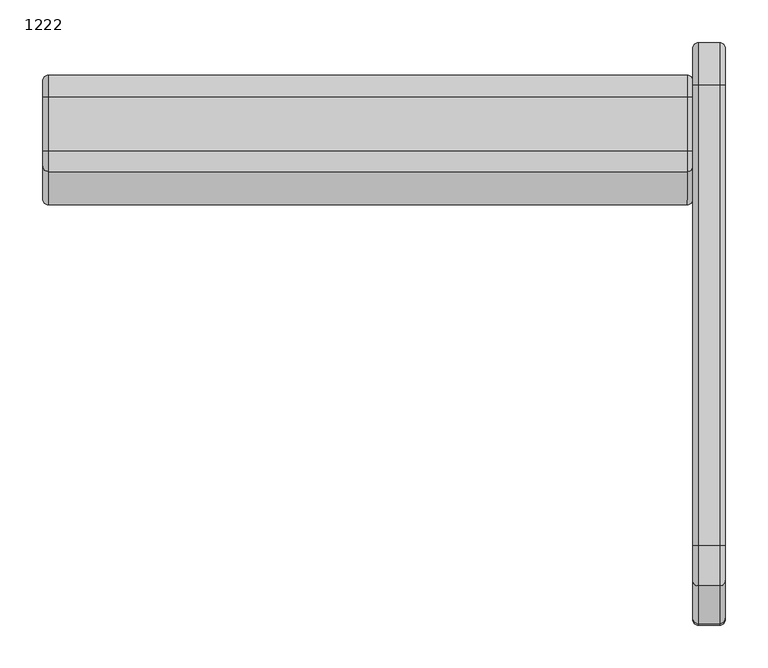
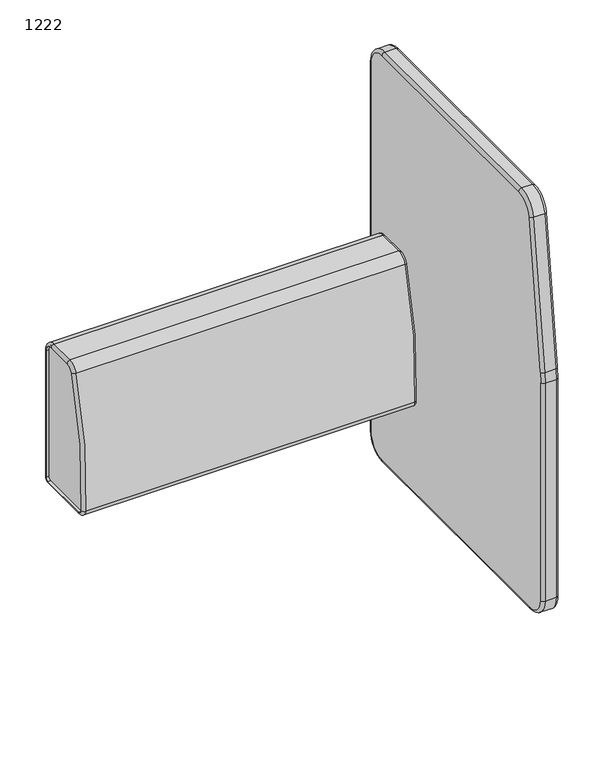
"""IFC4 building model written with IfcOpenShell, lengths in millimetres: furniture geometry, Laguna-Modular-Hideout-ERG : 1222."""

from ifc_helpers import new_model, si_unit, point, frame, origin, place, context, project, spatial, polyline, circle_curve, ellipse_curve, trimmed, source, transform, mapped, element, save
from ifc_brep_helpers import plane_surface, cylinder_surface, revolved_surface, advanced_brep


def furniture_1222_aee030c2(model_context):
    return source(origin(), model_context, "Body", "AdvancedBrep", [
        advanced_brep(
        [(-3856.2921763, 635.4862683, 1147.5016884), (-3862.6421763, 641.7851414, 1146.6975135), (-3862.6421763, 597.5318227, 800.0738559), (-3856.2921763, 591.2329495, 800.8780307), (-3830.8921763, 591.2329495, 800.8780307), (-3830.8921763, 635.4862683, 1147.5016884), (-3824.5421763, 597.5318227, 800.0738559), (-3824.5421763, 641.7851414, 1146.6975135), (-3856.2921763, 589.6308502, 775.6785972), (-3862.6421763, 595.9808502, 775.6785972), (-3862.6421763, 595.9808502, 251.7902), (-3856.2921763, 589.6308502, 251.7902), (-3830.8921763, 589.6308502, 251.7902), (-3830.8921763, 589.6308502, 775.6785972), (-3824.5421763, 595.9808502, 251.7902), (-3824.5421763, 595.9808502, 775.6785972), (-3862.6421763, 638.2210502, 209.55), (-3856.2921763, 638.2210502, 203.2), (-3830.8921763, 638.2210502, 203.2), (-3824.5421763, 638.2210502, 209.55), (-3862.6421763, 1222.7258502, 209.55), (-3856.2921763, 1222.7258502, 203.2), (-3830.8921763, 1222.7258502, 203.2), (-3824.5421763, 1222.7258502, 209.55), (-3862.6421763, 1265.9058502, 252.73), (-3856.2921763, 1272.2558502, 252.73), (-3830.8921763, 1272.2558502, 252.73), (-3824.5421763, 1265.9058502, 252.73), (-3862.6421763, 1265.9058502, 1140.0520944), (-3856.2921763, 1272.2558502, 1140.0520944), (-3830.8921763, 1272.2558502, 1140.0520944), (-3824.5421763, 1265.9058502, 1140.0520944), (-3862.6421763, 1222.7258502, 1183.2320944), (-3856.2921763, 1222.7258502, 1189.5820944), (-3830.8921763, 1222.7258502, 1189.5820944), (-3824.5421763, 1222.7258502, 1183.2320944), (-3862.6421763, 683.2806242, 1183.2320944), (-3856.2921763, 683.2806242, 1189.5820944), (-3830.8921763, 683.2806242, 1189.5820944), (-3824.5421763, 683.2806242, 1183.2320944)],
        [
            (0, 1, circle_curve(frame((-3856.2921763, 641.7851414, 1146.6975135), z_axis=(0.0, -0.12664171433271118, -0.9919485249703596), x_axis=(0.0, 0.9919485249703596, -0.12664171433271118)), 6.35)),
            (1, 2),
            (2, 3, circle_curve(frame((-3856.2921763, 597.5318227, 800.0738559), z_axis=(0.0, 0.12664171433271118, 0.9919485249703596), x_axis=(0.0, 0.9919485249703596, -0.12664171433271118)), 6.35)),
            (3, 0),
            (3, 4),
            (4, 5),
            (5, 0),
            (4, 6, circle_curve(frame((-3830.8921763, 597.5318227, 800.0738559), z_axis=(0.0, 0.12664171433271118, 0.9919485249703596), x_axis=(0.0, 0.9919485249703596, -0.12664171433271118)), 6.35)),
            (6, 7),
            (7, 5, circle_curve(frame((-3830.8921763, 641.7851414, 1146.6975135), z_axis=(0.0, -0.12664171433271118, -0.9919485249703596), x_axis=(0.0, 0.9919485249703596, -0.12664171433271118)), 6.35)),
            (8, 9, circle_curve(frame((-3856.2921763, 595.9808502, 775.6785972), z_axis=(0.0, 0.0, -1.0), x_axis=(0.0, 1.0, 0.0)), 6.35)),
            (9, 10),
            (10, 11, circle_curve(frame((-3856.2921763, 595.9808502, 251.7902), z_axis=(0.0, 0.0, 1.0), x_axis=(0.0, 1.0, 0.0)), 6.35)),
            (11, 8),
            (11, 12),
            (12, 13),
            (13, 8),
            (12, 14, circle_curve(frame((-3830.8921763, 595.9808502, 251.7902), z_axis=(0.0, 0.0, 1.0), x_axis=(0.0, 1.0, 0.0)), 6.35)),
            (14, 15),
            (15, 13, circle_curve(frame((-3830.8921763, 595.9808502, 775.6785972), z_axis=(0.0, 0.0, -1.0), x_axis=(0.0, 1.0, 0.0)), 6.35)),
            (10, 16, circle_curve(frame((-3862.6421763, 638.2210502, 251.7902), z_axis=(1.0, 0.0, 0.0), x_axis=(0.0, -1.0, 0.0)), 42.2402)),
            (16, 17, circle_curve(frame((-3856.2921763, 638.2210502, 209.55), z_axis=(0.0, -1.0, 0.0), x_axis=(0.0, 0.0, 1.0)), 6.35)),
            (17, 11, circle_curve(frame((-3856.2921763, 638.2210502, 251.7902), z_axis=(-1.0, 0.0, 0.0), x_axis=(0.0, -1.0, 0.0)), 48.5902)),
            (17, 18),
            (18, 12, circle_curve(frame((-3830.8921763, 638.2210502, 251.7902), z_axis=(-1.0, 0.0, 0.0), x_axis=(0.0, -1.0, 0.0)), 48.5902)),
            (18, 19, circle_curve(frame((-3830.8921763, 638.2210502, 209.55), z_axis=(0.0, -1.0, 0.0), x_axis=(0.0, 0.0, 1.0)), 6.35)),
            (19, 14, circle_curve(frame((-3824.5421763, 638.2210502, 251.7902), z_axis=(-1.0, 0.0, 0.0), x_axis=(0.0, -1.0, 0.0)), 42.2402)),
            (16, 20),
            (20, 21, circle_curve(frame((-3856.2921763, 1222.7258502, 209.55), z_axis=(0.0, -1.0, 0.0), x_axis=(0.0, 0.0, 1.0)), 6.35)),
            (21, 17),
            (21, 22),
            (22, 18),
            (22, 23, circle_curve(frame((-3830.8921763, 1222.7258502, 209.55), z_axis=(0.0, -1.0, 0.0), x_axis=(0.0, 0.0, 1.0)), 6.35)),
            (23, 19),
            (20, 24, circle_curve(frame((-3862.6421763, 1222.7258502, 252.73), z_axis=(1.0, 0.0, 0.0), x_axis=(0.0, 0.0, -1.0)), 43.18)),
            (24, 25, circle_curve(frame((-3856.2921763, 1265.9058502, 252.73), z_axis=(0.0, 0.0, -1.0), x_axis=(0.0, -1.0, 0.0)), 6.35)),
            (25, 21, circle_curve(frame((-3856.2921763, 1222.7258502, 252.73), z_axis=(-1.0, 0.0, 0.0), x_axis=(0.0, 0.0, -1.0)), 49.53)),
            (25, 26),
            (26, 22, circle_curve(frame((-3830.8921763, 1222.7258502, 252.73), z_axis=(-1.0, 0.0, 0.0), x_axis=(0.0, 0.0, -1.0)), 49.53)),
            (26, 27, circle_curve(frame((-3830.8921763, 1265.9058502, 252.73), z_axis=(0.0, 0.0, -1.0), x_axis=(0.0, -1.0, 0.0)), 6.35)),
            (27, 23, circle_curve(frame((-3824.5421763, 1222.7258502, 252.73), z_axis=(-1.0, 0.0, 0.0), x_axis=(0.0, 0.0, -1.0)), 43.18)),
            (24, 28),
            (28, 29, circle_curve(frame((-3856.2921763, 1265.9058502, 1140.0520944), z_axis=(0.0, 0.0, -1.0), x_axis=(0.0, -1.0, 0.0)), 6.35)),
            (29, 25),
            (29, 30),
            (30, 26),
            (30, 31, circle_curve(frame((-3830.8921763, 1265.9058502, 1140.0520944), z_axis=(0.0, 0.0, -1.0), x_axis=(0.0, -1.0, 0.0)), 6.35)),
            (31, 27),
            (28, 32, circle_curve(frame((-3862.6421763, 1222.7258502, 1140.0520944), z_axis=(1.0, 0.0, 0.0), x_axis=(0.0, 1.0, 0.0)), 43.18)),
            (32, 33, circle_curve(frame((-3856.2921763, 1222.7258502, 1183.2320944), z_axis=(0.0, 1.0, 0.0), x_axis=(0.0, 0.0, -1.0)), 6.35)),
            (33, 29, circle_curve(frame((-3856.2921763, 1222.7258502, 1140.0520944), z_axis=(-1.0, 0.0, 0.0), x_axis=(0.0, 1.0, 0.0)), 49.53)),
            (33, 34),
            (34, 30, circle_curve(frame((-3830.8921763, 1222.7258502, 1140.0520944), z_axis=(-1.0, 0.0, 0.0), x_axis=(0.0, 1.0, 0.0)), 49.53)),
            (34, 35, circle_curve(frame((-3830.8921763, 1222.7258502, 1183.2320944), z_axis=(0.0, 1.0, 0.0), x_axis=(0.0, 0.0, -1.0)), 6.35)),
            (35, 31, circle_curve(frame((-3824.5421763, 1222.7258502, 1140.0520944), z_axis=(-1.0, 0.0, 0.0), x_axis=(0.0, 1.0, 0.0)), 43.18)),
            (32, 36),
            (36, 37, circle_curve(frame((-3856.2921763, 683.2806242, 1183.2320944), z_axis=(0.0, 1.0, 0.0), x_axis=(0.0, 0.0, -1.0)), 6.35)),
            (37, 33),
            (37, 38),
            (38, 34),
            (38, 39, circle_curve(frame((-3830.8921763, 683.2806242, 1183.2320944), z_axis=(0.0, 1.0, 0.0), x_axis=(0.0, 0.0, -1.0)), 6.35)),
            (39, 35),
            (0, 37, circle_curve(frame((-3856.2921763, 683.2806242, 1141.3998), z_axis=(-1.0, 0.0, 0.0), x_axis=(0.0, 0.0, 1.0)), 48.1822944)),
            (36, 1, circle_curve(frame((-3862.6421763, 683.2806242, 1141.3998), z_axis=(1.0, 0.0, 0.0), x_axis=(0.0, 0.0, 1.0)), 41.8322944)),
            (5, 38, circle_curve(frame((-3830.8921763, 683.2806242, 1141.3998), z_axis=(-1.0, 0.0, 0.0), x_axis=(0.0, 0.0, 1.0)), 48.1822944)),
            (7, 39, circle_curve(frame((-3824.5421763, 683.2806242, 1141.3998), z_axis=(-1.0, 0.0, 0.0), x_axis=(0.0, 0.0, 1.0)), 41.8322944)),
            (9, 2, circle_curve(frame((-3862.6421763, 788.6129446, 775.6785972), z_axis=(-1.0, 0.0, 0.0), x_axis=(0.0, -0.9919485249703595, 0.12664171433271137)), 192.6320944)),
            (8, 3, circle_curve(frame((-3856.2921763, 788.6129446, 775.6785972), z_axis=(-1.0, 0.0, 0.0), x_axis=(0.0, -0.9919485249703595, 0.12664171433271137)), 198.9820944)),
            (13, 4, circle_curve(frame((-3830.8921763, 788.6129446, 775.6785972), z_axis=(-1.0, 0.0, 0.0), x_axis=(0.0, -0.9919485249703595, 0.12664171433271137)), 198.9820944)),
            (15, 6, circle_curve(frame((-3824.5421763, 788.6129446, 775.6785972), z_axis=(-1.0, 0.0, 0.0), x_axis=(0.0, -0.9919485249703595, 0.12664171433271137)), 192.6320944)),
        ],
        [
            cylinder_surface(frame((-3856.2921763, 641.7851414, 1146.6975135), z_axis=(0.0, 0.12664171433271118, 0.9919485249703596), x_axis=(0.0, 0.9919485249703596, -0.12664171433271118)), 6.35),
            plane_surface(frame((-3856.2921763, 635.4862683, 1147.5016884), z_axis=(0.0, -0.9919485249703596, 0.12664171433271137), x_axis=(0.0, -0.12664171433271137, -0.9919485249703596))),
            cylinder_surface(frame((-3830.8921763, 641.7851414, 1146.6975135), z_axis=(0.0, 0.12664171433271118, 0.9919485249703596), x_axis=(0.0, 0.9919485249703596, -0.12664171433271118)), 6.35),
            cylinder_surface(frame((-3856.2921763, 595.9808502, 775.6785972), z_axis=(0.0, 0.0, 1.0), x_axis=(0.0, 1.0, 0.0)), 6.35),
            plane_surface(frame((-3856.2921763, 589.6308502, 775.6785972), z_axis=(0.0, -1.0, 0.0), x_axis=(0.0, 0.0, -1.0))),
            cylinder_surface(frame((-3830.8921763, 595.9808502, 775.6785972), z_axis=(0.0, 0.0, 1.0), x_axis=(0.0, 1.0, 0.0)), 6.35),
            revolved_surface(trimmed(ellipse_curve(frame((-3856.2921763, 595.9808502, 251.7902), z_axis=(0.0, 0.0, 1.0), x_axis=(0.0, 1.0, 0.0)), 6.35, 6.35), [point((-3862.6421763, 595.9808502, 251.7902))], [point((-3856.2921763, 589.6308502, 251.7902))], True, "CARTESIAN"), (-3824.5421763, 638.2210502, 251.7902), (1.0, 0.0, 0.0)),
            cylinder_surface(frame((-3824.5421763, 638.2210502, 251.7902), z_axis=(1.0, 0.0, 0.0), x_axis=(0.0, -1.0, 0.0)), 48.5902),
            revolved_surface(trimmed(ellipse_curve(frame((-3830.8921763, 595.9808502, 251.7902), z_axis=(0.0, 0.0, 1.0), x_axis=(0.0, 1.0, 0.0)), 6.35, 6.35), [point((-3830.8921763, 589.6308502, 251.7902))], [point((-3824.5421763, 595.9808502, 251.7902))], True, "CARTESIAN"), (-3824.5421763, 638.2210502, 251.7902), (1.0, 0.0, 0.0)),
            cylinder_surface(frame((-3856.2921763, 638.2210502, 209.55), z_axis=(0.0, -1.0, 0.0), x_axis=(0.0, 0.0, 1.0)), 6.35),
            plane_surface(frame((-3856.2921763, 638.2210502, 203.2), z_axis=(0.0, 0.0, -1.0), x_axis=(0.0, 1.0, 0.0))),
            cylinder_surface(frame((-3830.8921763, 638.2210502, 209.55), z_axis=(0.0, -1.0, 0.0), x_axis=(0.0, 0.0, 1.0)), 6.35),
            revolved_surface(trimmed(ellipse_curve(frame((-3856.2921763, 1222.7258502, 209.55), z_axis=(0.0, -1.0, 0.0), x_axis=(0.0, 0.0, 1.0)), 6.35, 6.35), [point((-3862.6421763, 1222.7258502, 209.55))], [point((-3856.2921763, 1222.7258502, 203.2))], True, "CARTESIAN"), (-3824.5421763, 1222.7258502, 252.73), (1.0, 0.0, 0.0)),
            cylinder_surface(frame((-3824.5421763, 1222.7258502, 252.73), z_axis=(1.0, 0.0, 0.0), x_axis=(0.0, 0.0, -1.0)), 49.53),
            revolved_surface(trimmed(ellipse_curve(frame((-3830.8921763, 1222.7258502, 209.55), z_axis=(0.0, -1.0, 0.0), x_axis=(0.0, 0.0, 1.0)), 6.35, 6.35), [point((-3830.8921763, 1222.7258502, 203.2))], [point((-3824.5421763, 1222.7258502, 209.55))], True, "CARTESIAN"), (-3824.5421763, 1222.7258502, 252.73), (1.0, 0.0, 0.0)),
            cylinder_surface(frame((-3856.2921763, 1265.9058502, 252.73), z_axis=(0.0, 0.0, -1.0), x_axis=(0.0, -1.0, 0.0)), 6.35),
            plane_surface(frame((-3856.2921763, 1272.2558502, 252.73), z_axis=(0.0, 1.0, 0.0), x_axis=(0.0, 0.0, 1.0))),
            cylinder_surface(frame((-3830.8921763, 1265.9058502, 252.73), z_axis=(0.0, 0.0, -1.0), x_axis=(0.0, -1.0, 0.0)), 6.35),
            revolved_surface(trimmed(ellipse_curve(frame((-3856.2921763, 1265.9058502, 1140.0520944), z_axis=(0.0, 0.0, -1.0), x_axis=(0.0, -1.0, 0.0)), 6.35, 6.35), [point((-3862.6421763, 1265.9058502, 1140.0520944))], [point((-3856.2921763, 1272.2558502, 1140.0520944))], True, "CARTESIAN"), (-3824.5421763, 1222.7258502, 1140.0520944), (1.0, 0.0, 0.0)),
            cylinder_surface(frame((-3824.5421763, 1222.7258502, 1140.0520944), z_axis=(1.0, 0.0, 0.0), x_axis=(0.0, 1.0, 0.0)), 49.53),
            revolved_surface(trimmed(ellipse_curve(frame((-3830.8921763, 1265.9058502, 1140.0520944), z_axis=(0.0, 0.0, -1.0), x_axis=(0.0, -1.0, 0.0)), 6.35, 6.35), [point((-3830.8921763, 1272.2558502, 1140.0520944))], [point((-3824.5421763, 1265.9058502, 1140.0520944))], True, "CARTESIAN"), (-3824.5421763, 1222.7258502, 1140.0520944), (1.0, 0.0, 0.0)),
            cylinder_surface(frame((-3856.2921763, 1222.7258502, 1183.2320944), z_axis=(0.0, 1.0, 0.0), x_axis=(0.0, 0.0, -1.0)), 6.35),
            plane_surface(frame((-3856.2921763, 1222.7258502, 1189.5820944), z_axis=(0.0, 0.0, 1.0), x_axis=(0.0, -1.0, 0.0))),
            cylinder_surface(frame((-3830.8921763, 1222.7258502, 1183.2320944), z_axis=(0.0, 1.0, 0.0), x_axis=(0.0, 0.0, -1.0)), 6.35),
            revolved_surface(trimmed(ellipse_curve(frame((-3856.2921763, 683.2806242, 1183.2320944), z_axis=(0.0, 1.0, 0.0), x_axis=(0.0, 0.0, -1.0)), 6.35, 6.35), [point((-3862.6421763, 683.2806242, 1183.2320944))], [point((-3856.2921763, 683.2806242, 1189.5820944))], True, "CARTESIAN"), (-3824.5421763, 683.2806242, 1141.3998), (1.0, 0.0, 0.0)),
            cylinder_surface(frame((-3824.5421763, 683.2806242, 1141.3998), z_axis=(1.0, 0.0, 0.0), x_axis=(0.0, 0.0, 1.0)), 48.1822944),
            revolved_surface(trimmed(ellipse_curve(frame((-3830.8921763, 683.2806242, 1183.2320944), z_axis=(0.0, 1.0, 0.0), x_axis=(0.0, 0.0, -1.0)), 6.35, 6.35), [point((-3830.8921763, 683.2806242, 1189.5820944))], [point((-3824.5421763, 683.2806242, 1183.2320944))], True, "CARTESIAN"), (-3824.5421763, 683.2806242, 1141.3998), (1.0, 0.0, 0.0)),
            plane_surface(frame((-3862.6421763, 788.6129446, 775.6785972), z_axis=(-1.0000000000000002, 0.0, 0.0), x_axis=(0.0, -0.9919485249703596, 0.1266417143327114))),
            revolved_surface(trimmed(ellipse_curve(frame((-3856.2921763, 597.5318227, 800.0738559), z_axis=(0.0, 0.12664171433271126, 0.9919485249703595), x_axis=(0.0, 0.9919485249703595, -0.12664171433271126)), 6.35, 6.35), [point((-3862.6421763, 597.5318227, 800.0738559))], [point((-3856.2921763, 591.2329495, 800.8780307))], True, "CARTESIAN"), (-3824.5421763, 788.6129446, 775.6785972), (1.0, 0.0, 0.0)),
            cylinder_surface(frame((-3824.5421763, 788.6129446, 775.6785972), z_axis=(1.0, 0.0, 0.0), x_axis=(0.0, -0.9919485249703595, 0.12664171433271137)), 198.9820944),
            revolved_surface(trimmed(ellipse_curve(frame((-3830.8921763, 597.5318227, 800.0738559), z_axis=(0.0, 0.12664171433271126, 0.9919485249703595), x_axis=(0.0, 0.9919485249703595, -0.12664171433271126)), 6.35, 6.35), [point((-3830.8921763, 591.2329495, 800.8780307))], [point((-3824.5421763, 597.5318227, 800.0738559))], True, "CARTESIAN"), (-3824.5421763, 788.6129446, 775.6785972), (1.0, 0.0, 0.0)),
            plane_surface(frame((-3824.5421763, 788.6129446, 775.6785972), z_axis=(1.0000000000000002, 0.0, 0.0), x_axis=(0.0, -0.9919485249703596, 0.1266417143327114))),
        ],
        [
            (0, [[1, 2, 3, 4]]),
            (1, [[-4, 5, 6, 7]]),
            (2, [[-6, 8, 9, 10]]),
            (3, [[11, 12, 13, 14]]),
            (4, [[-14, 15, 16, 17]]),
            (5, [[-16, 18, 19, 20]]),
            (6, [[-13, 21, 22, 23]]),
            (7, [[-15, -23, 24, 25]]),
            (8, [[-18, -25, 26, 27]]),
            (9, [[-22, 28, 29, 30]]),
            (10, [[-24, -30, 31, 32]]),
            (11, [[-26, -32, 33, 34]]),
            (12, [[-29, 35, 36, 37]]),
            (13, [[-31, -37, 38, 39]]),
            (14, [[-33, -39, 40, 41]]),
            (15, [[-36, 42, 43, 44]]),
            (16, [[-38, -44, 45, 46]]),
            (17, [[-40, -46, 47, 48]]),
            (18, [[-43, 49, 50, 51]]),
            (19, [[-45, -51, 52, 53]]),
            (20, [[-47, -53, 54, 55]]),
            (21, [[-50, 56, 57, 58]]),
            (22, [[-52, -58, 59, 60]]),
            (23, [[-54, -60, 61, 62]]),
            (24, [[-1, 63, -57, 64]]),
            (25, [[-7, 65, -59, -63]]),
            (26, [[-10, 66, -61, -65]]),
            (27, [[-2, -64, -56, -49, -42, -35, -28, -21, -12, 67]]),
            (28, [[-3, -67, -11, 68]]),
            (29, [[-5, -68, -17, 69]]),
            (30, [[-8, -69, -20, 70]]),
            (31, [[-9, -70, -19, -27, -34, -41, -48, -55, -62, -66]]),
        ],
    ),
        advanced_brep(
        [(-4618.2921763, 1121.3089686, 744.3916508), (-4624.6421763, 1127.3528197, 742.4437381), (-4624.6421763, 1088.8035624, 436.3225994), (-4618.2921763, 1082.4654689, 435.9339217), (-4618.2921763, 1127.3528197, 742.4437381), (-4618.2921763, 1088.8035624, 436.3225994), (-4624.6421763, 1100.3633388, 425.45), (-4618.2921763, 1100.3633388, 419.1), (-4618.2921763, 1100.3633388, 425.45), (-4624.6421763, 1221.4558502, 425.45), (-4618.2921763, 1221.4558502, 419.1), (-4618.2921763, 1221.4558502, 425.45), (-4624.6421763, 1227.8058502, 431.8), (-4618.2921763, 1234.1558502, 431.8), (-4618.2921763, 1227.8058502, 431.8), (-4624.6421763, 1227.8058502, 736.6), (-4618.2921763, 1234.1558502, 736.6), (-4618.2921763, 1227.8058502, 736.6), (-4624.6421763, 1208.7558502, 755.65), (-4618.2921763, 1208.7558502, 762.0), (-4618.2921763, 1208.7558502, 755.65), (-4624.6421763, 1145.484373, 755.65), (-4618.2921763, 1145.484373, 762.0), (-4618.2921763, 1145.484373, 755.65), (-3868.9921763, 1227.8058502, 736.6), (-3868.9921763, 1208.7558502, 755.65), (-3868.9921763, 1145.484373, 755.65), (-3868.9921763, 1127.3528197, 742.4437381), (-3868.9921763, 1088.8035624, 436.3225994), (-3868.9921763, 1100.3633388, 425.45), (-3868.9921763, 1221.4558502, 425.45), (-3868.9921763, 1227.8058502, 431.8), (-3868.9921763, 1082.4654689, 435.9339217), (-3868.9921763, 1100.3633388, 419.1), (-3868.9921763, 1221.4558502, 419.1), (-3868.9921763, 1234.1558502, 431.8), (-3868.9921763, 1234.1558502, 736.6), (-3868.9921763, 1208.7558502, 762.0), (-3868.9921763, 1145.484373, 762.0), (-3868.9921763, 1121.3089686, 744.3916508), (-3862.6421763, 1227.8058502, 736.6), (-3862.6421763, 1208.7558502, 755.65), (-3862.6421763, 1145.484373, 755.65), (-3862.6421763, 1127.3528197, 742.4437381), (-3862.6421763, 1088.8035624, 436.3225994), (-3862.6421763, 1100.3633388, 425.45), (-3862.6421763, 1221.4558502, 425.45), (-3862.6421763, 1227.8058502, 431.8)],
        [
            (0, 1, circle_curve(frame((-4618.2921763, 1127.3528197, 742.4437381), z_axis=(0.0, -0.3067579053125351, -0.95178757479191), x_axis=(0.0, 0.95178757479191, -0.3067579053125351)), 6.35)),
            (1, 2, circle_curve(frame((-4624.6421763, 1919.1691857, 487.2440105), z_axis=(1.0, 0.0, 0.0), x_axis=(0.0, -0.95178757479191, 0.30675790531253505)), 831.9255126)),
            (2, 3, circle_curve(frame((-4618.2921763, 1088.8035624, 436.3225994), z_axis=(0.0, -0.06120909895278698, 0.9981249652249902), x_axis=(0.0, 0.9981249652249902, 0.06120909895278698)), 6.35)),
            (3, 0, circle_curve(frame((-4618.2921763, 1919.1691857, 487.2440105), z_axis=(-1.0, 0.0, 0.0), x_axis=(0.0, -0.95178757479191, 0.30675790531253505)), 838.2755126)),
            (1, 4),
            (4, 5, circle_curve(frame((-4618.2921763, 1919.1691857, 487.2440105), z_axis=(1.0, 0.0, 0.0), x_axis=(0.0, -0.95178757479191, 0.30675790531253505)), 831.9255126)),
            (5, 2),
            (2, 6, circle_curve(frame((-4624.6421763, 1100.3633388, 437.0314921), z_axis=(1.0, 0.0, 0.0), x_axis=(0.0, -0.9981249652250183, -0.06120909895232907)), 11.5814921)),
            (6, 7, circle_curve(frame((-4618.2921763, 1100.3633388, 425.45), z_axis=(0.0, -0.9999999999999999, 0.0), x_axis=(0.0, 0.0, 0.9999999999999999)), 6.35)),
            (7, 3, circle_curve(frame((-4618.2921763, 1100.3633388, 437.0314921), z_axis=(-1.0, 0.0, 0.0), x_axis=(0.0, -0.9981249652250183, -0.06120909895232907)), 17.9314921)),
            (5, 8, circle_curve(frame((-4618.2921763, 1100.3633388, 437.0314921), z_axis=(1.0, 0.0, 0.0), x_axis=(0.0, -0.9981249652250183, -0.06120909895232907)), 11.5814921)),
            (8, 6),
            (6, 9),
            (9, 10, circle_curve(frame((-4618.2921763, 1221.4558502, 425.45), z_axis=(0.0, -1.0, 0.0), x_axis=(0.0, 0.0, 1.0)), 6.35)),
            (10, 7),
            (8, 11),
            (11, 9),
            (9, 12, circle_curve(frame((-4624.6421763, 1221.4558502, 431.8), z_axis=(1.0, 0.0, 0.0), x_axis=(0.0, 0.0, -1.0)), 6.35)),
            (12, 13, circle_curve(frame((-4618.2921763, 1227.8058502, 431.8), z_axis=(0.0, 0.0, -1.0), x_axis=(0.0, -1.0, 0.0)), 6.35)),
            (13, 10, circle_curve(frame((-4618.2921763, 1221.4558502, 431.8), z_axis=(-1.0, 0.0, 0.0), x_axis=(0.0, 0.0, -1.0)), 12.7)),
            (11, 14, circle_curve(frame((-4618.2921763, 1221.4558502, 431.8), z_axis=(1.0, 0.0, 0.0), x_axis=(0.0, 0.0, -1.0)), 6.35)),
            (14, 12),
            (12, 15),
            (15, 16, circle_curve(frame((-4618.2921763, 1227.8058502, 736.6), z_axis=(0.0, 0.0, -1.0), x_axis=(0.0, -1.0, 0.0)), 6.35)),
            (16, 13),
            (14, 17),
            (17, 15),
            (15, 18, circle_curve(frame((-4624.6421763, 1208.7558502, 736.6), z_axis=(1.0, 0.0, 0.0), x_axis=(0.0, 1.0, 0.0)), 19.05)),
            (18, 19, circle_curve(frame((-4618.2921763, 1208.7558502, 755.65), z_axis=(0.0, 1.0, 0.0), x_axis=(0.0, 0.0, -1.0)), 6.35)),
            (19, 16, circle_curve(frame((-4618.2921763, 1208.7558502, 736.6), z_axis=(-1.0, 0.0, 0.0), x_axis=(0.0, 1.0, 0.0)), 25.4)),
            (17, 20, circle_curve(frame((-4618.2921763, 1208.7558502, 736.6), z_axis=(1.0, 0.0, 0.0), x_axis=(0.0, 1.0, 0.0)), 19.05)),
            (20, 18),
            (18, 21),
            (21, 22, circle_curve(frame((-4618.2921763, 1145.484373, 755.65), z_axis=(0.0, 1.0, 0.0), x_axis=(0.0, 0.0, -1.0)), 6.35)),
            (22, 19),
            (20, 23),
            (23, 21),
            (0, 22, circle_curve(frame((-4618.2921763, 1145.484373, 736.6), z_axis=(-1.0, 0.0, 0.0), x_axis=(0.0, 0.0, 1.0)), 25.4)),
            (21, 1, circle_curve(frame((-4624.6421763, 1145.484373, 736.6), z_axis=(1.0, 0.0, 0.0), x_axis=(0.0, 0.0, 1.0)), 19.05)),
            (23, 4, circle_curve(frame((-4618.2921763, 1145.484373, 736.6), z_axis=(1.0, 0.0, 0.0), x_axis=(0.0, 0.0, 1.0)), 19.05)),
            (24, 25, circle_curve(frame((-3868.9921763, 1208.7558502, 736.6), z_axis=(1.0, 0.0, 0.0), x_axis=(0.0, 1.0, 0.0)), 19.05)),
            (25, 26),
            (26, 27, circle_curve(frame((-3868.9921763, 1145.484373, 736.6), z_axis=(1.0, 0.0, 0.0), x_axis=(0.0, 0.0, 1.0)), 19.05)),
            (27, 28, circle_curve(frame((-3868.9921763, 1919.1691857, 487.2440105), z_axis=(1.0, 0.0, 0.0), x_axis=(0.0, -0.95178757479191, 0.30675790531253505)), 831.9255126)),
            (28, 29, circle_curve(frame((-3868.9921763, 1100.3633388, 437.0314921), z_axis=(1.0, 0.0, 0.0), x_axis=(0.0, -0.9981249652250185, -0.06120909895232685)), 11.5814921)),
            (29, 30),
            (30, 31, circle_curve(frame((-3868.9921763, 1221.4558502, 431.8), z_axis=(1.0, 0.0, 0.0), x_axis=(0.0, 0.0, -1.0)), 6.35)),
            (31, 24),
            (32, 3),
            (7, 33),
            (33, 32, circle_curve(frame((-3868.9921763, 1100.3633388, 437.0314921), z_axis=(-1.0, 0.0, 0.0), x_axis=(0.0, 1.0, 0.0)), 17.9314921)),
            (10, 34),
            (34, 33),
            (13, 35),
            (35, 34, circle_curve(frame((-3868.9921763, 1221.4558502, 431.8), z_axis=(-1.0, 0.0, 0.0), x_axis=(0.0, 1.0, 0.0)), 12.7)),
            (16, 36),
            (36, 35),
            (19, 37),
            (37, 36, circle_curve(frame((-3868.9921763, 1208.7558502, 736.6), z_axis=(-1.0, 0.0, 0.0), x_axis=(0.0, 1.0, 0.0)), 25.4)),
            (22, 38),
            (38, 37),
            (0, 39),
            (39, 38, circle_curve(frame((-3868.9921763, 1145.484373, 736.6), z_axis=(-1.0, 0.0, 0.0), x_axis=(0.0, 1.0, 0.0)), 25.4)),
            (32, 39, circle_curve(frame((-3868.9921763, 1919.1691857, 487.2440105), z_axis=(-1.0, 0.0, 0.0), x_axis=(0.0, 1.0, 0.0)), 838.2755126)),
            (24, 40),
            (40, 41, circle_curve(frame((-3862.6421763, 1208.7558502, 736.6), z_axis=(1.0, 0.0, 0.0), x_axis=(0.0, 1.0, 0.0)), 19.05)),
            (41, 25),
            (40, 36, circle_curve(frame((-3868.9921763, 1227.8058502, 736.6), z_axis=(0.0, 0.0, 1.0), x_axis=(0.0, -1.0, 0.0)), 6.35)),
            (37, 41, circle_curve(frame((-3868.9921763, 1208.7558502, 755.65), z_axis=(0.0, 1.0, 0.0), x_axis=(0.0, 0.0, -1.0)), 6.35)),
            (41, 42),
            (42, 26),
            (38, 42, circle_curve(frame((-3868.9921763, 1145.484373, 755.65), z_axis=(0.0, 1.0, 0.0), x_axis=(0.0, 0.0, -1.0)), 6.35)),
            (42, 43, circle_curve(frame((-3862.6421763, 1145.484373, 736.6), z_axis=(1.0, 0.0, 0.0), x_axis=(0.0, 0.0, 1.0)), 19.05)),
            (43, 27),
            (39, 43, circle_curve(frame((-3868.9921763, 1127.3528197, 742.4437381), z_axis=(0.0, 0.30675790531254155, 0.9517875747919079), x_axis=(0.0, 0.9517875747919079, -0.30675790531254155)), 6.35)),
            (43, 44, circle_curve(frame((-3862.6421763, 1919.1691857, 487.2440105), z_axis=(1.0, 0.0, 0.0), x_axis=(0.0, -0.95178757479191, 0.30675790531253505)), 831.9255126)),
            (44, 28),
            (32, 44, circle_curve(frame((-3868.9921763, 1088.8035624, 436.3225994), z_axis=(0.0, -0.061209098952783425, 0.9981249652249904), x_axis=(0.0, 0.9981249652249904, 0.061209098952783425)), 6.35)),
            (44, 45, circle_curve(frame((-3862.6421763, 1100.3633388, 437.0314921), z_axis=(1.0, 0.0, 0.0), x_axis=(0.0, -0.9981249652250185, -0.06120909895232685)), 11.5814921)),
            (45, 29),
            (33, 45, circle_curve(frame((-3868.9921763, 1100.3633388, 425.45), z_axis=(0.0, -1.0, 0.0), x_axis=(0.0, 0.0, 1.0)), 6.35)),
            (45, 46),
            (46, 30),
            (34, 46, circle_curve(frame((-3868.9921763, 1221.4558502, 425.45), z_axis=(0.0, -1.0, 0.0), x_axis=(0.0, 0.0, 1.0)), 6.35)),
            (46, 47, circle_curve(frame((-3862.6421763, 1221.4558502, 431.8), z_axis=(1.0, 0.0, 0.0), x_axis=(0.0, 0.0, -1.0)), 6.35)),
            (47, 31),
            (35, 47, circle_curve(frame((-3868.9921763, 1227.8058502, 431.8), z_axis=(0.0, 0.0, -1.0), x_axis=(0.0, -1.0, 0.0)), 6.35)),
            (47, 40),
        ],
        [
            revolved_surface(trimmed(ellipse_curve(frame((-4618.2921763, 1127.3528197, 742.4437381), z_axis=(0.0, 0.3067579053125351, 0.95178757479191), x_axis=(0.0, 0.95178757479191, -0.3067579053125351)), 6.35, 6.35), [point((-4624.6421763, 1127.3528197, 742.4437381))], [point((-4618.2921763, 1121.3089686, 744.3916508))], True, "CARTESIAN"), (-4618.2921763, 1919.1691857, 487.2440105), (1.0, 0.0, 0.0)),
            revolved_surface(polyline([(-4618.2921763, 1127.3528196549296, 742.443738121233), (-4624.6421763, 1127.3528196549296, 742.443738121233)]), (-4618.2921763, 1919.1691857, 487.2440105), (1.0, 0.0, 0.0)),
            revolved_surface(trimmed(ellipse_curve(frame((-4618.2921763, 1088.8035624, 436.3225994), z_axis=(0.0, -0.06120909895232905, 0.9981249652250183), x_axis=(0.0, 0.9981249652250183, 0.06120909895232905)), 6.35, 6.35), [point((-4624.6421763, 1088.8035624, 436.3225994))], [point((-4618.2921763, 1082.4654689, 435.9339217))], True, "CARTESIAN"), (-4618.2921763, 1100.3633388, 437.0314921), (1.0, 0.0, 0.0)),
            revolved_surface(polyline([(-4618.2921763, 1088.8035624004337, 436.3225994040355), (-4624.6421763, 1088.8035624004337, 436.3225994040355)]), (-4618.2921763, 1100.3633388, 437.0314921), (1.0, 0.0, 0.0)),
            cylinder_surface(frame((-4618.2921763, 1100.3633388, 425.45), z_axis=(0.0, -1.0, 0.0), x_axis=(0.0, 0.0, 1.0)), 6.35),
            plane_surface(frame((-4618.2921763, 1100.3633388, 425.45), z_axis=(0.0, 0.0, 1.0), x_axis=(0.0, 1.0, 0.0))),
            revolved_surface(trimmed(ellipse_curve(frame((-4618.2921763, 1221.4558502, 425.45), z_axis=(0.0, -1.0, 0.0), x_axis=(0.0, 0.0, 1.0)), 6.35, 6.35), [point((-4624.6421763, 1221.4558502, 425.45))], [point((-4618.2921763, 1221.4558502, 419.1))], True, "CARTESIAN"), (-4618.2921763, 1221.4558502, 431.8), (1.0, 0.0, 0.0)),
            revolved_surface(polyline([(-4618.2921763, 1221.4558502, 425.45), (-4624.6421763, 1221.4558502, 425.45)]), (-4618.2921763, 1221.4558502, 431.8), (1.0, 0.0, 0.0)),
            cylinder_surface(frame((-4618.2921763, 1227.8058502, 431.8), z_axis=(0.0, 0.0, -1.0), x_axis=(0.0, -1.0, 0.0)), 6.35),
            plane_surface(frame((-4618.2921763, 1227.8058502, 431.8), z_axis=(0.0, -1.0, 0.0), x_axis=(0.0, 0.0, 1.0))),
            revolved_surface(trimmed(ellipse_curve(frame((-4618.2921763, 1227.8058502, 736.6), z_axis=(0.0, 0.0, -1.0), x_axis=(0.0, -1.0, 0.0)), 6.35, 6.35), [point((-4624.6421763, 1227.8058502, 736.6))], [point((-4618.2921763, 1234.1558502, 736.6))], True, "CARTESIAN"), (-4618.2921763, 1208.7558502, 736.6), (1.0, 0.0, 0.0)),
            revolved_surface(polyline([(-4618.2921763, 1227.8058502, 736.6), (-4624.6421763, 1227.8058502, 736.6)]), (-4618.2921763, 1208.7558502, 736.6), (1.0, 0.0, 0.0)),
            cylinder_surface(frame((-4618.2921763, 1208.7558502, 755.65), z_axis=(0.0, 1.0, 0.0), x_axis=(0.0, 0.0, -1.0)), 6.35),
            plane_surface(frame((-4618.2921763, 1208.7558502, 755.65), z_axis=(0.0, 0.0, -1.0), x_axis=(0.0, -1.0, 0.0))),
            revolved_surface(trimmed(ellipse_curve(frame((-4618.2921763, 1145.484373, 755.65), z_axis=(0.0, 1.0, 0.0), x_axis=(0.0, 0.0, -1.0)), 6.35, 6.35), [point((-4624.6421763, 1145.484373, 755.65))], [point((-4618.2921763, 1145.484373, 762.0))], True, "CARTESIAN"), (-4618.2921763, 1145.484373, 736.6), (1.0, 0.0, 0.0)),
            revolved_surface(polyline([(-4618.2921763, 1145.484373, 755.65), (-4624.6421763, 1145.484373, 755.65)]), (-4618.2921763, 1145.484373, 736.6), (1.0, 0.0, 0.0)),
            plane_surface(frame((-3868.9921763, 1118.294831, 437.0314921), z_axis=(1.0, 0.0, 0.0), x_axis=(0.0, 0.0, 1.0))),
            plane_surface(frame((-4618.2921763, 1118.294831, 437.0314921), z_axis=(-1.0, 0.0, 0.0), x_axis=(0.0, 0.0, -1.0))),
            cylinder_surface(frame((-4618.2921763, 1100.3633388, 437.0314921), z_axis=(1.0, 0.0, 0.0), x_axis=(0.0, 1.0, 0.0)), 17.9314921),
            plane_surface(frame((-3868.9921763, 1100.3633388, 419.1), z_axis=(0.0, 0.0, -1.0), x_axis=(-1.0, 0.0, 0.0))),
            cylinder_surface(frame((-4618.2921763, 1221.4558502, 431.8), z_axis=(1.0, 0.0, 0.0), x_axis=(0.0, 1.0, 0.0)), 12.7),
            plane_surface(frame((-3868.9921763, 1234.1558502, 431.8), z_axis=(0.0, 1.0, 0.0), x_axis=(-1.0, 0.0, 0.0))),
            cylinder_surface(frame((-4618.2921763, 1208.7558502, 736.6), z_axis=(1.0, 0.0, 0.0), x_axis=(0.0, 1.0, 0.0)), 25.4),
            plane_surface(frame((-3868.9921763, 1208.7558502, 762.0), z_axis=(0.0, 0.0, 1.0), x_axis=(-1.0, 0.0, 0.0))),
            cylinder_surface(frame((-4618.2921763, 1145.484373, 736.6), z_axis=(1.0, 0.0, 0.0), x_axis=(0.0, 1.0, 0.0)), 25.4),
            cylinder_surface(frame((-4618.2921763, 1919.1691857, 487.2440105), z_axis=(1.0, 0.0, 0.0), x_axis=(0.0, 1.0, 0.0)), 838.2755126),
            revolved_surface(polyline([(-3862.6421763, 1227.8058502, 736.6), (-3868.9921763, 1227.8058502, 736.6)]), (-3868.9921763, 1208.7558502, 736.6), (1.0, 0.0, 0.0)),
            revolved_surface(trimmed(ellipse_curve(frame((-3868.9921763, 1227.8058502, 736.6), z_axis=(0.0, 0.0, -1.0), x_axis=(0.0, -1.0, 0.0)), 6.35, 6.35), [point((-3868.9921763, 1234.1558502, 736.6))], [point((-3862.6421763, 1227.8058502, 736.6))], True, "CARTESIAN"), (-3868.9921763, 1208.7558502, 736.6), (1.0, 0.0, 0.0)),
            plane_surface(frame((-3862.6421763, 1208.7558502, 755.65), z_axis=(0.0, 0.0, -1.0), x_axis=(0.0, -1.0, 0.0))),
            cylinder_surface(frame((-3868.9921763, 1208.7558502, 755.65), z_axis=(0.0, 1.0, 0.0), x_axis=(0.0, 0.0, -1.0)), 6.35),
            revolved_surface(polyline([(-3862.6421763, 1145.484373, 755.65), (-3868.9921763, 1145.484373, 755.65)]), (-3868.9921763, 1145.484373, 736.6), (1.0, 0.0, 0.0)),
            revolved_surface(trimmed(ellipse_curve(frame((-3868.9921763, 1145.484373, 755.65), z_axis=(0.0, 1.0, 0.0), x_axis=(0.0, 0.0, -1.0)), 6.35, 6.35), [point((-3868.9921763, 1145.484373, 762.0))], [point((-3862.6421763, 1145.484373, 755.65))], True, "CARTESIAN"), (-3868.9921763, 1145.484373, 736.6), (1.0, 0.0, 0.0)),
            revolved_surface(polyline([(-3862.6421763, 1127.3528196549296, 742.443738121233), (-3868.9921763, 1127.3528196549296, 742.443738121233)]), (-3868.9921763, 1919.1691857, 487.2440105), (1.0, 0.0, 0.0)),
            revolved_surface(trimmed(ellipse_curve(frame((-3868.9921763, 1127.3528197, 742.4437381), z_axis=(0.0, 0.3067579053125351, 0.95178757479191), x_axis=(0.0, 0.95178757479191, -0.3067579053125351)), 6.35, 6.35), [point((-3868.9921763, 1121.3089686, 744.3916508))], [point((-3862.6421763, 1127.3528197, 742.4437381))], True, "CARTESIAN"), (-3868.9921763, 1919.1691857, 487.2440105), (1.0, 0.0, 0.0)),
            revolved_surface(polyline([(-3862.6421763, 1088.8035624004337, 436.3225994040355), (-3868.9921763, 1088.8035624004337, 436.3225994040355)]), (-3868.9921763, 1100.3633388, 437.0314921), (1.0, 0.0, 0.0)),
            revolved_surface(trimmed(ellipse_curve(frame((-3868.9921763, 1088.8035624, 436.3225994), z_axis=(0.0, -0.06120909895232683, 0.9981249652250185), x_axis=(0.0, 0.9981249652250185, 0.06120909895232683)), 6.35, 6.35), [point((-3868.9921763, 1082.4654689, 435.9339217))], [point((-3862.6421763, 1088.8035624, 436.3225994))], True, "CARTESIAN"), (-3868.9921763, 1100.3633388, 437.0314921), (1.0, 0.0, 0.0)),
            plane_surface(frame((-3862.6421763, 1100.3633388, 425.45), z_axis=(0.0, 0.0, 1.0), x_axis=(0.0, 1.0, 0.0))),
            cylinder_surface(frame((-3868.9921763, 1100.3633388, 425.45), z_axis=(0.0, -1.0, 0.0), x_axis=(0.0, 0.0, 1.0)), 6.35),
            revolved_surface(polyline([(-3862.6421763, 1221.4558502, 425.45), (-3868.9921763, 1221.4558502, 425.45)]), (-3868.9921763, 1221.4558502, 431.8), (1.0, 0.0, 0.0)),
            revolved_surface(trimmed(ellipse_curve(frame((-3868.9921763, 1221.4558502, 425.45), z_axis=(0.0, -1.0, 0.0), x_axis=(0.0, 0.0, 1.0)), 6.35, 6.35), [point((-3868.9921763, 1221.4558502, 419.1))], [point((-3862.6421763, 1221.4558502, 425.45))], True, "CARTESIAN"), (-3868.9921763, 1221.4558502, 431.8), (1.0, 0.0, 0.0)),
            plane_surface(frame((-3862.6421763, 1227.8058502, 431.8), z_axis=(0.0, -1.0, 0.0), x_axis=(0.0, 0.0, 1.0))),
            cylinder_surface(frame((-3868.9921763, 1227.8058502, 431.8), z_axis=(0.0, 0.0, -1.0), x_axis=(0.0, -1.0, 0.0)), 6.35),
        ],
        [
            (0, [[1, 2, 3, 4]]),
            (1, [[-2, 5, 6, 7]]),
            (2, [[-3, 8, 9, 10]]),
            (3, [[-7, 11, 12, -8]]),
            (4, [[-9, 13, 14, 15]]),
            (5, [[-12, 16, 17, -13]]),
            (6, [[-14, 18, 19, 20]]),
            (7, [[-17, 21, 22, -18]]),
            (8, [[-19, 23, 24, 25]]),
            (9, [[-22, 26, 27, -23]]),
            (10, [[-24, 28, 29, 30]]),
            (11, [[-27, 31, 32, -28]]),
            (12, [[-29, 33, 34, 35]]),
            (13, [[-32, 36, 37, -33]]),
            (14, [[-1, 38, -34, 39]]),
            (15, [[-5, -39, -37, 40]]),
            (16, [[41, 42, 43, 44, 45, 46, 47, 48]]),
            (17, [[-6, -40, -36, -31, -26, -21, -16, -11]]),
            (18, [[49, -10, 50, 51]]),
            (19, [[-50, -15, 52, 53]]),
            (20, [[-52, -20, 54, 55]]),
            (21, [[-54, -25, 56, 57]]),
            (22, [[-56, -30, 58, 59]]),
            (23, [[-58, -35, 60, 61]]),
            (24, [[-60, -38, 62, 63]]),
            (25, [[-49, 64, -62, -4]]),
            (26, [[65, 66, 67, -41]]),
            (27, [[-66, 68, -59, 69]]),
            (28, [[-67, 70, 71, -42]]),
            (29, [[-69, -61, 72, -70]]),
            (30, [[-71, 73, 74, -43]]),
            (31, [[-72, -63, 75, -73]]),
            (32, [[-74, 76, 77, -44]]),
            (33, [[-75, -64, 78, -76]]),
            (34, [[-77, 79, 80, -45]]),
            (35, [[-78, -51, 81, -79]]),
            (36, [[-80, 82, 83, -46]]),
            (37, [[-81, -53, 84, -82]]),
            (38, [[-83, 85, 86, -47]]),
            (39, [[-84, -55, 87, -85]]),
            (40, [[-65, -48, -86, 88]]),
            (41, [[-68, -88, -87, -57]]),
        ],
    ),
    ])


if __name__ == "__main__":
    model = new_model("IFC4")
    model_context = context("Model", 3, world=origin())
    ifc_project = project(units=[si_unit("LENGTHUNIT", "METRE", prefix="MILLI")], contexts=[model_context])
    site = spatial("IfcSite", under=ifc_project)
    building = spatial("IfcBuilding", under=site)
    placement = place(None, origin())
    furniture_1222_shape = furniture_1222_aee030c2(model_context)
    element("IfcFurniture", 1, ObjectType="Laguna-Modular-Hideout-ERG : 1222", at=placement, inside=building, context=model_context, shape_type="MappedRepresentation", body=[
        mapped(furniture_1222_shape, transform((0.0, 0.0, 0.0), x_axis=(1.0, 0.0, 0.0), y_axis=(0.0, 1.0, 0.0), z_axis=(0.0, 0.0, 1.0))),
    ])
    save(model, "model.ifc")
